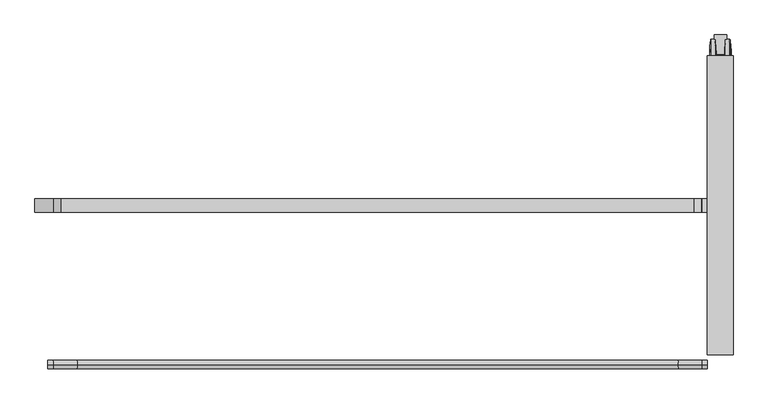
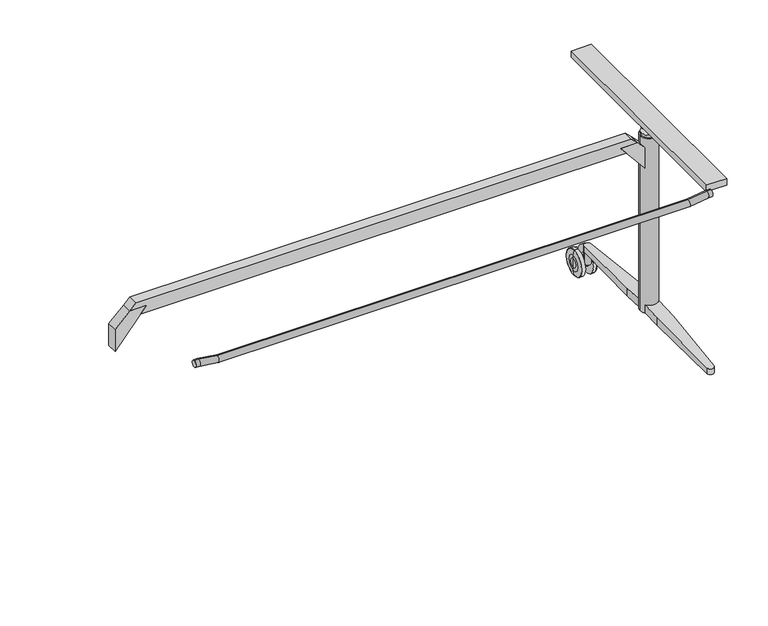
"""IFC4 building model written with IfcOpenShell, lengths in millimetres: furniture geometry, Table_Foldable_Wilkhahn_TimetableLift : 1800w x 900d (615/00)."""

from ifc_helpers import new_model, si_unit, point, frame, frame_2d, origin, place, context, project, spatial, polyline, circle_curve, ellipse_curve, trimmed, segment, composite_curve, outline, extrude, source, transform, mapped, element, save
from ifc_brep_helpers import plane_surface, cylinder_surface, revolved_surface, advanced_brep


def furniture_b4830623(model_context):
    return source(origin(), model_context, "Body", "SolidModel", [
        advanced_brep(
        [(770.4530674, 470.9511544, 26.9613134), (770.4530674, 470.9511544, 53.0387194), (770.4530674, 470.9511544, 40.0000164), (772.5845915, 470.9511544, 0.8972162), (772.5845915, 470.9511544, 79.1028166), (771.0121742, 470.9511544, 63.8876748), (771.0121742, 470.9511544, 16.1123581), (783.5439759, 470.9511544, 1.43e-05), (783.5439759, 470.9511544, 80.0000185), (773.5792938, 470.9511544, 80.0000185), (773.5792938, 470.9511544, 1.43e-05), (785.4530966, 470.9511544, 20.9999281), (785.4530966, 470.9511544, 59.0001048), (785.4530966, 470.9511544, 32.3463502), (785.4530966, 470.9511544, 47.6536826), (805.3531174, 470.9511544, 32.3463502), (805.3531174, 470.9511544, 47.6536826), (805.3531174, 470.9511544, 20.9999281), (805.3531174, 470.9511544, 59.0001048), (807.2622381, 470.9511544, 1.43e-05), (807.2622381, 470.9511544, 80.0000185), (816.3249398, 470.9511544, 1.43e-05), (816.3249398, 470.9511544, 80.0000185), (819.7942336, 470.9511544, 16.1142331), (819.7942336, 470.9511544, 63.8857997), (818.3143443, 470.9511544, 78.2056147), (818.3143443, 470.9511544, 1.7944182), (820.3531466, 470.9511544, 40.0000164), (820.3531466, 470.9511544, 53.0406045), (820.3531466, 470.9511544, 26.9594284)],
        [
            (0, 1, circle_curve(frame((770.4530674, 470.9511544, 40.0000164), z_axis=(-1.0, 0.0, 0.0), x_axis=(0.0, 0.0, 1.0)), 13.038703)),
            (1, 2),
            (2, 0),
            (1, 0, circle_curve(frame((770.4530674, 470.9511544, 40.0000164), z_axis=(-1.0, 0.0, 0.0), x_axis=(0.0, 0.0, 1.0)), 13.038703)),
            (3, 4, circle_curve(frame((772.5845915, 470.9511544, 40.0000164), z_axis=(-1.0, 0.0, 0.0), x_axis=(0.0, 0.0, 1.0)), 39.1028002)),
            (4, 5),
            (5, 6, circle_curve(frame((771.0121742, 470.9511544, 40.0000164), z_axis=(1.0, 0.0, 0.0), x_axis=(0.0, 0.0, 1.0)), 23.8876584)),
            (6, 3),
            (4, 3, circle_curve(frame((772.5845915, 470.9511544, 40.0000164), z_axis=(-1.0, 0.0, 0.0), x_axis=(0.0, 0.0, 1.0)), 39.1028002)),
            (6, 5, circle_curve(frame((771.0121742, 470.9511544, 40.0000164), z_axis=(1.0, 0.0, 0.0), x_axis=(0.0, 0.0, 1.0)), 23.8876584)),
            (7, 8, circle_curve(frame((783.5439759, 470.9511544, 40.0000164), z_axis=(-1.0, 0.0, 0.0), x_axis=(0.0, 0.0, 1.0)), 40.0000021)),
            (8, 9),
            (9, 10, circle_curve(frame((773.5792938, 470.9511544, 40.0000164), z_axis=(1.0, 0.0, 0.0), x_axis=(0.0, 0.0, 1.0)), 40.0000021)),
            (10, 7),
            (8, 7, circle_curve(frame((783.5439759, 470.9511544, 40.0000164), z_axis=(-1.0, 0.0, 0.0), x_axis=(0.0, 0.0, 1.0)), 40.0000021)),
            (10, 9, circle_curve(frame((773.5792938, 470.9511544, 40.0000164), z_axis=(1.0, 0.0, 0.0), x_axis=(0.0, 0.0, 1.0)), 40.0000021)),
            (11, 12, circle_curve(frame((785.4530966, 470.9511544, 40.0000164), z_axis=(-1.0, 0.0, 0.0), x_axis=(0.0, 0.0, 1.0)), 19.0000883)),
            (12, 8),
            (7, 11),
            (12, 11, circle_curve(frame((785.4530966, 470.9511544, 40.0000164), z_axis=(-1.0, 0.0, 0.0), x_axis=(0.0, 0.0, 1.0)), 19.0000883)),
            (13, 14, circle_curve(frame((785.4530966, 470.9511544, 40.0000164), z_axis=(-1.0, 0.0, 0.0), x_axis=(0.0, 0.0, 1.0)), 7.6536662)),
            (14, 12),
            (11, 13),
            (14, 13, circle_curve(frame((785.4530966, 470.9511544, 40.0000164), z_axis=(-1.0, 0.0, 0.0), x_axis=(0.0, 0.0, 1.0)), 7.6536662)),
            (15, 16, circle_curve(frame((805.3531174, 470.9511544, 40.0000164), z_axis=(-1.0, 0.0, 0.0), x_axis=(0.0, 0.0, 1.0)), 7.6536662)),
            (16, 14),
            (13, 15),
            (16, 15, circle_curve(frame((805.3531174, 470.9511544, 40.0000164), z_axis=(-1.0, 0.0, 0.0), x_axis=(0.0, 0.0, 1.0)), 7.6536662)),
            (17, 18, circle_curve(frame((805.3531174, 470.9511544, 40.0000164), z_axis=(-1.0, 0.0, 0.0), x_axis=(0.0, 0.0, 1.0)), 19.0000883)),
            (18, 16),
            (15, 17),
            (18, 17, circle_curve(frame((805.3531174, 470.9511544, 40.0000164), z_axis=(-1.0, 0.0, 0.0), x_axis=(0.0, 0.0, 1.0)), 19.0000883)),
            (19, 20, circle_curve(frame((807.2622381, 470.9511544, 40.0000164), z_axis=(-1.0, 0.0, 0.0), x_axis=(0.0, 0.0, 1.0)), 40.0000021)),
            (20, 18),
            (17, 19),
            (20, 19, circle_curve(frame((807.2622381, 470.9511544, 40.0000164), z_axis=(-1.0, 0.0, 0.0), x_axis=(0.0, 0.0, 1.0)), 40.0000021)),
            (21, 22, circle_curve(frame((816.3249398, 470.9511544, 40.0000164), z_axis=(-1.0, 0.0, 0.0), x_axis=(0.0, 0.0, 1.0)), 40.0000021)),
            (22, 20),
            (19, 21),
            (22, 21, circle_curve(frame((816.3249398, 470.9511544, 40.0000164), z_axis=(-1.0, 0.0, 0.0), x_axis=(0.0, 0.0, 1.0)), 40.0000021)),
            (23, 24, circle_curve(frame((819.7942336, 470.9511544, 40.0000164), z_axis=(-1.0, 0.0, 0.0), x_axis=(0.0, 0.0, 1.0)), 23.8857833)),
            (24, 25),
            (25, 26, circle_curve(frame((818.3143443, 470.9511544, 40.0000164), z_axis=(1.0, 0.0, 0.0), x_axis=(0.0, 0.0, 1.0)), 38.2055982)),
            (26, 23),
            (24, 23, circle_curve(frame((819.7942336, 470.9511544, 40.0000164), z_axis=(-1.0, 0.0, 0.0), x_axis=(0.0, 0.0, 1.0)), 23.8857833)),
            (26, 25, circle_curve(frame((818.3143443, 470.9511544, 40.0000164), z_axis=(1.0, 0.0, 0.0), x_axis=(0.0, 0.0, 1.0)), 38.2055982)),
            (27, 28),
            (28, 29, circle_curve(frame((820.3531466, 470.9511544, 40.0000164), z_axis=(1.0, 0.0, 0.0), x_axis=(0.0, 0.0, 1.0)), 13.0405881)),
            (29, 27),
            (29, 28, circle_curve(frame((820.3531466, 470.9511544, 40.0000164), z_axis=(1.0, 0.0, 0.0), x_axis=(0.0, 0.0, 1.0)), 13.0405881)),
            (5, 1, circle_curve(frame((875.9896451, 470.9511544, 53.0387194), z_axis=(0.0, -1.0, 0.0), x_axis=(-1.0, 0.0, 0.0)), 105.5365777)),
            (0, 6, circle_curve(frame((875.9896451, 470.9511544, 26.9613134), z_axis=(0.0, -1.0, 0.0), x_axis=(-1.0, 0.0, 0.0)), 105.5365777)),
            (9, 4, circle_curve(frame((773.5792938, 470.9511544, 79.0000185), z_axis=(0.0, -1.0, 0.0), x_axis=(-1.0, 0.0, 0.0)), 1.0)),
            (3, 10, circle_curve(frame((773.5792938, 470.9511544, 1.0000143), z_axis=(0.0, -1.0, 0.0), x_axis=(-1.0, 0.0, 0.0)), 1.0)),
            (25, 22, circle_curve(frame((816.3249398, 470.9511544, 78.0000185), z_axis=(0.0, -1.0, 0.0), x_axis=(-1.0, 0.0, 0.0)), 2.0)),
            (21, 26, circle_curve(frame((816.3249398, 470.9511544, 2.0000143), z_axis=(0.0, -1.0, 0.0), x_axis=(-1.0, 0.0, 0.0)), 2.0)),
            (28, 24, circle_curve(frame((714.8531466, 470.9511544, 53.0406045), z_axis=(0.0, -1.0, 0.0), x_axis=(-1.0, 0.0, 0.0)), 105.5)),
            (23, 29, circle_curve(frame((714.8531466, 470.9511544, 26.9594284), z_axis=(0.0, -1.0, 0.0), x_axis=(-1.0, 0.0, 0.0)), 105.5)),
        ],
        [
            plane_surface(frame((770.4530674, 470.9511544, 40.0000164), z_axis=(-1.0, 0.0, 0.0), x_axis=(0.0, 0.0, 1.0))),
            revolved_surface(polyline([(771.0121742, 470.9511544, 63.8876748), (772.5845915, 470.9511544, 79.1028166)]), (836.1531192, 470.9511544, 40.0000164), (1.0, 0.0, 0.0)),
            cylinder_surface(frame((836.1531192, 470.9511544, 40.0000164), z_axis=(1.0, 0.0, 0.0), x_axis=(0.0, 0.0, 1.0)), 40.0000021),
            revolved_surface(polyline([(783.5439759, 470.9511544, 80.0000185), (785.4530966, 470.9511544, 59.0001048)]), (836.1531192, 470.9511544, 40.0000164), (1.0, 0.0, 0.0)),
            plane_surface(frame((785.4530966, 470.9511544, 40.0000164), z_axis=(1.0, 0.0, 0.0), x_axis=(0.0, 0.0, 1.0))),
            cylinder_surface(frame((836.1531192, 470.9511544, 40.0000164), z_axis=(1.0, 0.0, 0.0), x_axis=(0.0, 0.0, 1.0)), 7.6536662),
            plane_surface(frame((805.3531174, 470.9511544, 40.0000164), z_axis=(-1.0, 0.0, 0.0), x_axis=(0.0, 0.0, 1.0))),
            revolved_surface(polyline([(805.3531174, 470.9511544, 59.0001048), (807.2622381, 470.9511544, 80.0000185)]), (836.1531192, 470.9511544, 40.0000164), (1.0, 0.0, 0.0)),
            revolved_surface(polyline([(818.3143443, 470.9511544, 78.2056147), (819.7942336, 470.9511544, 63.8857997)]), (836.1531192, 470.9511544, 40.0000164), (1.0, 0.0, 0.0)),
            plane_surface(frame((820.3531466, 470.9511544, 40.0000164), z_axis=(1.0, 0.0, 0.0), x_axis=(0.0, 0.0, 1.0))),
            revolved_surface(trimmed(ellipse_curve(frame((875.9896451, 470.9511544, 53.0387194), z_axis=(0.0, 1.0, 0.0), x_axis=(-1.0, 0.0, 0.0)), 105.5365777, 105.5365777), [point((770.4530674, 470.9511544, 53.0387194))], [point((771.0121742, 470.9511544, 63.8876748))], True, "CARTESIAN"), (836.1531192, 470.9511544, 40.0000164), (1.0, 0.0, 0.0)),
            revolved_surface(trimmed(ellipse_curve(frame((773.5792938, 470.9511544, 79.0000185), z_axis=(0.0, 1.0, 0.0), x_axis=(-1.0, 0.0, 0.0)), 1.0, 1.0), [point((772.5845915, 470.9511544, 79.1028166))], [point((773.5792938, 470.9511544, 80.0000185))], True, "CARTESIAN"), (836.1531192, 470.9511544, 40.0000164), (1.0, 0.0, 0.0)),
            revolved_surface(trimmed(ellipse_curve(frame((816.3249398, 470.9511544, 78.0000185), z_axis=(0.0, 1.0, 0.0), x_axis=(-1.0, 0.0, 0.0)), 2.0, 2.0), [point((816.3249398, 470.9511544, 80.0000185))], [point((818.3143443, 470.9511544, 78.2056147))], True, "CARTESIAN"), (836.1531192, 470.9511544, 40.0000164), (1.0, 0.0, 0.0)),
            revolved_surface(trimmed(ellipse_curve(frame((714.8531466, 470.9511544, 53.0406045), z_axis=(0.0, 1.0, 0.0), x_axis=(-1.0, 0.0, 0.0)), 105.5, 105.5), [point((819.7942336, 470.9511544, 63.8857997))], [point((820.3531466, 470.9511544, 53.0406045))], True, "CARTESIAN"), (836.1531192, 470.9511544, 40.0000164), (1.0, 0.0, 0.0)),
        ],
        [
            (0, [[1, 2, 3]]),
            (0, [[4, -3, -2]]),
            (1, [[5, 6, 7, 8]]),
            (1, [[9, -8, 10, -6]]),
            (2, [[11, 12, 13, 14]]),
            (2, [[15, -14, 16, -12]]),
            (3, [[17, 18, -11, 19]]),
            (3, [[20, -19, -15, -18]]),
            (4, [[21, 22, -17, 23]]),
            (4, [[24, -23, -20, -22]]),
            (5, [[25, 26, -21, 27]]),
            (5, [[28, -27, -24, -26]]),
            (6, [[29, 30, -25, 31]]),
            (6, [[32, -31, -28, -30]]),
            (7, [[33, 34, -29, 35]]),
            (7, [[36, -35, -32, -34]]),
            (2, [[37, 38, -33, 39]]),
            (2, [[40, -39, -36, -38]]),
            (8, [[41, 42, 43, 44]]),
            (8, [[45, -44, 46, -42]]),
            (9, [[47, 48, 49]]),
            (9, [[-49, 50, -47]]),
            (10, [[-7, 51, -1, 52]]),
            (10, [[-10, -52, -4, -51]]),
            (11, [[-13, 53, -5, 54]]),
            (11, [[-16, -54, -9, -53]]),
            (12, [[-43, 55, -37, 56]]),
            (12, [[-46, -56, -40, -55]]),
            (13, [[-48, 57, -41, 58]]),
            (13, [[-50, -58, -45, -57]]),
        ],
    ),
        advanced_brep(
        [(815.0000252, 110.1174444, 100.5064747), (815.0000252, 110.1174444, 125.9916346), (815.0000252, 36.3357458, 121.2672568), (815.0000252, 36.3357458, 97.6123077), (775.0000252, 110.1174444, 125.9916346), (775.0000252, 110.1174444, 100.5064747), (775.0000252, 51.0810607, 98.1907086), (775.0000252, 51.0810607, 122.2114264), (805.336693, -188.0675149, 88.8098467), (785.2872838, -188.0675149, 88.8098467), (785.3284401, -189.0242798, 106.8370403), (805.2954923, -189.0242831, 106.8370401), (805.2954923, -189.0242831, 88.8098467), (785.3284401, -189.0242798, 88.8098467)],
        [
            (0, 1),
            (1, 2),
            (2, 3),
            (3, 0),
            (4, 5),
            (5, 6),
            (6, 7),
            (7, 4),
            (5, 0),
            (3, 8),
            (8, 9),
            (9, 6),
            (1, 4),
            (7, 10),
            (10, 11, ellipse_curve(frame((795.3119663, -188.4505156, 106.8737795), z_axis=(0.0, -0.06390097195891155, 0.9979562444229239), x_axis=(0.0, -0.9979562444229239, -0.06390097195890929)), 10.0204794, 10.0)),
            (11, 2),
            (8, 12),
            (12, 13, circle_curve(frame((795.3119663, -188.4505156, 88.8098467), z_axis=(0.0, 0.0, -1.0), x_axis=(-1.0, 0.0, 0.0)), 10.0)),
            (13, 9),
            (13, 10),
            (12, 11),
        ],
        [
            plane_surface(frame((815.0000252, 110.1174444, 100.5064747), z_axis=(1.0, 0.0, 0.0), x_axis=(0.0, 0.9992315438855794, 0.039195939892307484))),
            plane_surface(frame((775.0000252, 110.1174444, 100.5064747), z_axis=(-1.0, 0.0, 0.0), x_axis=(0.0, -0.9992315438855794, -0.039195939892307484))),
            plane_surface(frame((815.0000252, -188.0675149, 88.8098467), z_axis=(0.0, 0.039195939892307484, -0.9992315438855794), x_axis=(-1.0, 0.0, 0.0))),
            plane_surface(frame((815.0000252, 110.1174444, 125.9916346), z_axis=(0.0, -0.06390097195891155, 0.9979562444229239), x_axis=(-1.0, 0.0, 0.0))),
            plane_surface(frame((815.0000252, -199.5346363, 88.8098467), z_axis=(0.0, 0.0, -1.0), x_axis=(-1.0, 0.0, 0.0))),
            plane_surface(frame((785.3284401, -189.0242798, 234.8098558), z_axis=(-0.9990760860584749, -0.04297643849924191, 0.0), x_axis=(0.0, 0.0, -1.0))),
            cylinder_surface(frame((795.3119663, -188.4505156, -14.1901527), z_axis=(0.0, 0.0, -1.0), x_axis=(-1.0, 0.0, 0.0)), 10.0),
            plane_surface(frame((818.1772387, 110.1174444, 234.8098558), z_axis=(0.9990741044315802, -0.0430224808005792, 0.0), x_axis=(0.0, 0.0, -1.0))),
            plane_surface(frame((815.0000252, 110.1174444, 100.5064747), z_axis=(0.0, 1.0, 0.0), x_axis=(-1.0, 0.0, 0.0))),
        ],
        [
            (0, [[1, 2, 3, 4]]),
            (1, [[5, 6, 7, 8]]),
            (2, [[9, -4, 10, 11, 12, -6]]),
            (3, [[13, -8, 14, 15, 16, -2]]),
            (4, [[-11, 17, 18, 19]]),
            (5, [[20, -14, -7, -12, -19]]),
            (6, [[-20, -18, 21, -15]]),
            (7, [[-21, -17, -10, -3, -16]]),
            (8, [[-1, -9, -5, -13]]),
        ],
    ),
        advanced_brep(
        [(815.0000252, 141.7848644, 125.5064747), (815.0000252, 141.7848644, 100.5064747), (815.0000252, 215.566563, 97.6123077), (815.0000252, 215.566563, 120.8290263), (775.0000252, 141.7848644, 100.5064747), (775.0000252, 141.7848644, 125.5064747), (775.0000252, 200.8212482, 121.7638171), (775.0000252, 200.8212482, 98.1907086), (785.2872838, 439.9698238, 88.8098467), (805.336693, 439.9698238, 88.8098467), (805.2954923, 440.926592, 106.5421512), (785.3284401, 440.9265887, 106.5421514), (785.3284401, 440.9265887, 88.8098467), (805.2954923, 440.926592, 88.8098467)],
        [
            (0, 1),
            (1, 2),
            (2, 3),
            (3, 0),
            (4, 5),
            (5, 6),
            (6, 7),
            (7, 4),
            (1, 4),
            (7, 8),
            (8, 9),
            (9, 2),
            (0, 5),
            (3, 10),
            (10, 11, ellipse_curve(frame((795.3119663, 440.3528245, 106.5785257), z_axis=(0.0, 0.06326876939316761, 0.9979965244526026), x_axis=(0.0, 0.9979965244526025, -0.06326876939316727)), 10.020075, 10.0)),
            (11, 6),
            (8, 12),
            (12, 13, circle_curve(frame((795.3119663, 440.3528245, 88.8098467), z_axis=(0.0, 0.0, -1.0), x_axis=(-1.0, 0.0, 0.0)), 10.0)),
            (13, 9),
            (11, 12),
            (10, 13),
        ],
        [
            plane_surface(frame((815.0000252, 110.1174444, 100.5064747), z_axis=(1.0, 0.0, 0.0), x_axis=(0.0, 0.9992315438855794, 0.039195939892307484))),
            plane_surface(frame((775.0000252, 110.1174444, 100.5064747), z_axis=(-1.0, 0.0, 0.0), x_axis=(0.0, -0.9992315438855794, -0.039195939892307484))),
            plane_surface(frame((815.0000252, 141.7848644, 100.5064747), z_axis=(0.0, -0.039195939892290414, -0.9992315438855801), x_axis=(-1.0, 0.0, 0.0))),
            plane_surface(frame((815.0000252, 141.7848644, 125.5064747), z_axis=(0.0, -1.0, 0.0), x_axis=(-1.0, 0.0, 0.0))),
            plane_surface(frame((815.0000252, 451.4369452, 105.8758392), z_axis=(0.0, 0.06326876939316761, 0.9979965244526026), x_axis=(-1.0, 0.0, 0.0))),
            plane_surface(frame((815.0000252, 439.9698238, 88.8098467), z_axis=(0.0, 0.0, -1.0), x_axis=(-1.0, 0.0, 0.0))),
            plane_surface(frame((772.5013837, 142.7351655, 234.8098558), z_axis=(-0.999076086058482, 0.042976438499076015, 0.0), x_axis=(0.0, 0.0, -1.0))),
            cylinder_surface(frame((795.3119663, 440.3528245, -14.1901527), z_axis=(0.0, 0.0, -1.0), x_axis=(-1.0, 0.0, 0.0)), 10.0),
            plane_surface(frame((805.2954923, 440.926592, 234.8098558), z_axis=(0.9990741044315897, 0.04302248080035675, 0.0), x_axis=(0.0, 0.0, -1.0))),
        ],
        [
            (0, [[1, 2, 3, 4]]),
            (1, [[5, 6, 7, 8]]),
            (2, [[9, -8, 10, 11, 12, -2]]),
            (3, [[-1, 13, -5, -9]]),
            (4, [[-13, -4, 14, 15, 16, -6]]),
            (5, [[-11, 17, 18, 19]]),
            (6, [[20, -17, -10, -7, -16]]),
            (7, [[-20, -15, 21, -18]]),
            (8, [[-21, -14, -3, -12, -19]]),
        ],
    ),
        extrude(outline(composite_curve([segment(trimmed(circle_curve(frame_2d((795.0000252, 125.9511544)), 22.0748856), [point((817.0749108, 125.9511544))], [point((772.9251395, 125.9511544))], False, "CARTESIAN"), True, "CONTINUOUS"), segment(trimmed(circle_curve(frame_2d((795.0000252, 125.9511544)), 22.0748856), [point((772.9251395, 125.9511544))], [point((817.0749108, 125.9511544))], False, "CARTESIAN"), True, "CONTINUOUS")], self_intersect=False)), frame((0.0, 0.0, 648.5142032), z_axis=(0.0, 0.0, 1.0), x_axis=(1.0, 0.0, 0.0)), (0.0, 0.0, 1.0), 7.7231854),
        extrude(outline(polyline([(46.8012701, 809.9796901), (46.8012701, 780.8589951), (33.7579803, 783.5602115), (33.7579803, 807.2784737), (46.8012701, 809.9796901)])), frame((0.0, 470.9511544, 0.0), z_axis=(0.0, 1.0, 0.0), x_axis=(0.0, 0.0, 1.0)), (0.0, 0.0, 1.0), 50.0),
        extrude(outline(composite_curve([segment(trimmed(circle_curve(frame_2d((795.0000252, 125.9511544)), 21.8066495), [point((816.8066747, 125.9511544))], [point((773.1933756, 125.9511544))], False, "CARTESIAN"), True, "CONTINUOUS"), segment(trimmed(circle_curve(frame_2d((795.0000252, 125.9511544)), 21.8066495), [point((773.1933756, 125.9511544))], [point((816.8066747, 125.9511544))], False, "CARTESIAN"), True, "CONTINUOUS")], self_intersect=False)), frame((0.0, 0.0, 672.2302641), z_axis=(0.0, 0.0, 1.0), x_axis=(1.0, 0.0, 0.0)), (0.0, 0.0, 1.0), 12.7697121),
        extrude(outline(composite_curve([segment(trimmed(circle_curve(frame_2d((795.5388896, 440.7419216)), 9.5), [point((805.0388896, 440.7419216))], [point((786.0388896, 440.7419216))], False, "CARTESIAN"), True, "CONTINUOUS"), segment(trimmed(circle_curve(frame_2d((795.5388896, 440.7419216)), 9.5), [point((786.0388896, 440.7419216))], [point((805.0388896, 440.7419216))], False, "CARTESIAN"), True, "CONTINUOUS")], self_intersect=False)), frame((0.0, 0.0, 50.0000143), z_axis=(0.0, 0.0, 1.0), x_axis=(1.0, 0.0, 0.0)), (0.0, 0.0, 1.0), 38.8098324),
        extrude(outline(composite_curve([segment(trimmed(circle_curve(frame_2d((795.0, 125.9511544)), 26.0), [point((821.0, 125.9511544))], [point((769.0, 125.9511544))], False, "CARTESIAN"), True, "CONTINUOUS"), segment(trimmed(circle_curve(frame_2d((795.0, 125.9511544)), 26.0), [point((769.0, 125.9511544))], [point((821.0, 125.9511544))], False, "CARTESIAN"), True, "CONTINUOUS")], self_intersect=False)), frame((0.0, 0.0, 100.2652558), z_axis=(0.0, 0.0, 1.0), x_axis=(1.0, 0.0, 0.0)), (0.0, 0.0, 1.0), 548.2489474),
        extrude(outline(polyline([(659.9544603, -734.0633969), (642.2767908, -751.7410664), (642.2767908, -701.7410664), (621.0635874, -719.2634425), (621.0635874, 719.2634425), (642.2767908, 701.7410664), (642.2767908, 751.7410664), (659.9544603, 734.0633969), (659.9544603, -734.0633969)])), frame((0.0, 109.7857178, 0.0), z_axis=(0.0, 1.0, 0.0), x_axis=(0.0, 0.0, 1.0)), (0.0, 0.0, 1.0), 31.1654367),
        extrude(outline(polyline([(599.7944959, 794.2233613), (642.2767908, 751.7410664), (642.2767908, 701.7410664), (530.3144788, 794.2233613), (599.7944959, 794.2233613)])), frame((0.0, 109.7857178, 0.0), z_axis=(0.0, 1.0, 0.0), x_axis=(0.0, 0.0, 1.0)), (0.0, 0.0, 1.0), 31.1654367),
        extrude(outline(polyline([(599.0178177, -795.0000395), (529.3742049, -795.0000395), (642.2767908, -701.7410664), (642.2767908, -751.7410664), (599.0178177, -795.0000395)])), frame((0.0, 109.7857178, 0.0), z_axis=(0.0, 1.0, 0.0), x_axis=(0.0, 0.0, 1.0)), (0.0, 0.0, 1.0), 31.1654367),
        extrude(outline(polyline([(765.0000395, 472.9511544), (825.0000109, 472.9511544), (825.0000109, -221.0488456), (765.0000395, -221.0488456), (765.0000395, 472.9511544)])), frame((0.0, 0.0, 684.9999762), z_axis=(0.0, 0.0, 1.0), x_axis=(1.0, 0.0, 0.0)), (0.0, 0.0, 1.0), 20.0000238),
        advanced_brep(
        [(-765.0000395, -244.1884095, 705.4672388), (-765.0000395, -244.1884095, 685.4672388), (765.0000395, -244.1884095, 705.4672388), (765.0000395, -244.1884095, 685.4672388), (-752.0892263, -244.1884095, 705.4672388), (-753.5361626, -244.1884095, 685.4672388), (-697.0892404, -244.1884095, 697.4672184), (-698.5361767, -244.1884095, 677.4672184), (697.089229, -244.1884095, 697.4672184), (698.5361653, -244.1884095, 677.4672184), (752.0892149, -244.1884095, 705.4672388), (753.5361512, -244.1884095, 685.4672388)],
        [
            (0, 1, circle_curve(frame((-765.0000395, -244.1884095, 695.4672388), z_axis=(-1.0, 0.0, 0.0), x_axis=(0.0, 0.0, -1.0)), 10.0)),
            (1, 0, circle_curve(frame((-765.0000395, -244.1884095, 695.4672388), z_axis=(-1.0, 0.0, 0.0), x_axis=(0.0, 0.0, -1.0)), 10.0)),
            (2, 3, circle_curve(frame((765.0000395, -244.1884095, 695.4672388), z_axis=(1.0, 0.0, 0.0), x_axis=(0.0, 0.0, -1.0)), 10.0)),
            (3, 2, circle_curve(frame((765.0000395, -244.1884095, 695.4672388), z_axis=(1.0, 0.0, 0.0), x_axis=(0.0, 0.0, -1.0)), 10.0)),
            (0, 4),
            (4, 5, ellipse_curve(frame((-752.8126945, -244.1884095, 695.4672388), z_axis=(-0.9973931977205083, 0.0, 0.07215822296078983), x_axis=(-0.07215822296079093, 0.0, -0.997393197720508)), 10.0261362, 10.0)),
            (5, 1),
            (5, 4, ellipse_curve(frame((-752.8126945, -244.1884095, 695.4672388), z_axis=(-0.9973931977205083, 0.0, 0.07215822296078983), x_axis=(-0.07215822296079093, 0.0, -0.997393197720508)), 10.0261362, 10.0)),
            (4, 6),
            (6, 7, ellipse_curve(frame((-697.8127086, -244.1884095, 687.4672184), z_axis=(-0.9973931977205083, 0.0, 0.07215822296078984), x_axis=(0.07215822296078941, 0.0, 0.9973931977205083)), 10.0261362, 10.0)),
            (7, 5),
            (7, 6, ellipse_curve(frame((-697.8127086, -244.1884095, 687.4672184), z_axis=(-0.9973931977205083, 0.0, 0.07215822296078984), x_axis=(0.07215822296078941, 0.0, 0.9973931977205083)), 10.0261362, 10.0)),
            (6, 8),
            (8, 9, ellipse_curve(frame((697.8126971, -244.1884095, 687.4672184), z_axis=(-0.997393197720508, 0.0, -0.07215822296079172), x_axis=(-0.07215822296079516, 0.0, 0.9973931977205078)), 10.0261362, 10.0)),
            (9, 7),
            (9, 8, ellipse_curve(frame((697.8126971, -244.1884095, 687.4672184), z_axis=(-0.997393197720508, 0.0, -0.07215822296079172), x_axis=(-0.07215822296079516, 0.0, 0.9973931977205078)), 10.0261362, 10.0)),
            (8, 10),
            (10, 11, ellipse_curve(frame((752.812683, -244.1884095, 695.4672388), z_axis=(-0.997393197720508, 0.0, -0.0721582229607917), x_axis=(0.07215822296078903, 0.0, -0.9973931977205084)), 10.0261362, 10.0)),
            (11, 9),
            (11, 10, ellipse_curve(frame((752.812683, -244.1884095, 695.4672388), z_axis=(-0.997393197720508, 0.0, -0.0721582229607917), x_axis=(0.07215822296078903, 0.0, -0.9973931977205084)), 10.0261362, 10.0)),
            (10, 2),
            (3, 11),
        ],
        [
            plane_surface(frame((-765.0000395, -324.0488456, 665.2336856), z_axis=(-1.0, 0.0, 0.0), x_axis=(0.0, 1.0, 0.0))),
            plane_surface(frame((765.0000395, -324.0488456, 665.2336856), z_axis=(1.0, 0.0, 0.0), x_axis=(0.0, 1.0, 0.0))),
            cylinder_surface(frame((-765.0000395, -244.1884095, 695.4672388), z_axis=(-1.0, 0.0, 0.0), x_axis=(0.0, 0.0, -1.0)), 10.0),
            cylinder_surface(frame((-750.6481708, -244.1884095, 695.1523982), z_axis=(-0.989586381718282, 0.0, 0.14394024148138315), x_axis=(-0.14394024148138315, 0.0, -0.989586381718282)), 10.0),
            cylinder_surface(frame((-700.0000099, -244.1884095, 687.4672184), z_axis=(-1.0, 0.0, 0.0), x_axis=(0.0, 0.0, -1.0)), 10.0),
            cylinder_surface(frame((695.6481735, -244.1884095, 687.1523777), z_axis=(-0.9895863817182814, 0.0, -0.14394024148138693), x_axis=(0.14394024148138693, 0.0, -0.9895863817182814)), 10.0),
            cylinder_surface(frame((754.9999844, -244.1884095, 695.4672388), z_axis=(-1.0, 0.0, 0.0), x_axis=(0.0, 0.0, -1.0)), 10.0),
        ],
        [
            (0, [[1, 2]]),
            (1, [[3, 4]]),
            (2, [[-1, 5, 6, 7]]),
            (2, [[-2, -7, 8, -5]]),
            (3, [[-6, 9, 10, 11]]),
            (3, [[-8, -11, 12, -9]]),
            (4, [[-10, 13, 14, 15]]),
            (4, [[-12, -15, 16, -13]]),
            (5, [[-14, 17, 18, 19]]),
            (5, [[-16, -19, 20, -17]]),
            (6, [[-18, 21, -4, 22]]),
            (6, [[-20, -22, -3, -21]]),
        ],
    ),
    ])


if __name__ == "__main__":
    model = new_model("IFC4")
    model_context = context("Model", 3, world=origin())
    ifc_project = project(units=[si_unit("LENGTHUNIT", "METRE", prefix="MILLI")], contexts=[model_context])
    site = spatial("IfcSite", under=ifc_project)
    building = spatial("IfcBuilding", under=site)
    placement = place(None, origin())
    furniture_shape = furniture_b4830623(model_context)
    element("IfcFurniture", 1, ObjectType="Table_Foldable_Wilkhahn_TimetableLift : 1800w x 900d (615/00)", at=placement, inside=building, context=model_context, shape_type="MappedRepresentation", body=[
        mapped(furniture_shape, transform((0.0, 0.0, 0.0), x_axis=(1.0, 0.0, 0.0), y_axis=(0.0, 1.0, 0.0), z_axis=(0.0, 0.0, 1.0))),
    ])
    save(model, "model.ifc")
